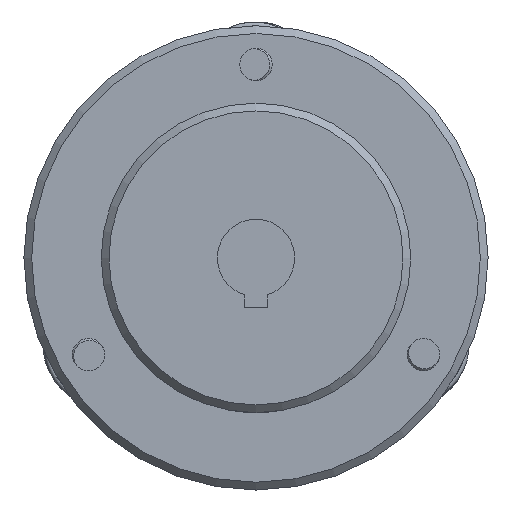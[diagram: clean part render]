
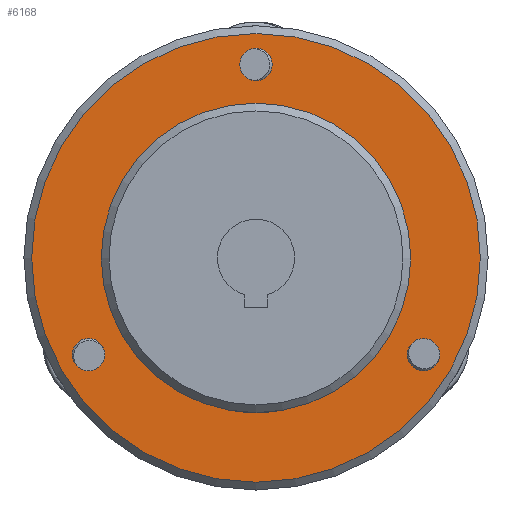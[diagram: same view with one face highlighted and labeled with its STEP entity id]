
A CAD part, left-side view. The second image highlights one B-rep face of the part: STEP entity #6168.
In plain terms, the highlighted planar face has unit normal (-1, 0, 0) as drawn and (0, 1, 0) by its records, which use the part's own axes.
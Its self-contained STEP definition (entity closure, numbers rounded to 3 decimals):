
#1181=FACE_BOUND('',#2025,.T.);
#1182=FACE_BOUND('',#2026,.T.);
#1183=FACE_BOUND('',#2027,.T.);
#1184=FACE_BOUND('',#2028,.T.);
#1580=FACE_OUTER_BOUND('',#2024,.T.);
#2024=EDGE_LOOP('',(#5620));
#2025=EDGE_LOOP('',(#5621));
#2026=EDGE_LOOP('',(#5622));
#2027=EDGE_LOOP('',(#5623));
#2028=EDGE_LOOP('',(#5624));
#2489=CIRCLE('',#7150,40.);
#2490=CIRCLE('',#7153,58.);
#2493=CIRCLE('',#7158,4.188);
#2494=CIRCLE('',#7159,4.188);
#2495=CIRCLE('',#7160,4.188);
#3005=VERTEX_POINT('',#13202);
#3009=VERTEX_POINT('',#13249);
#3012=VERTEX_POINT('',#13259);
#3013=VERTEX_POINT('',#13261);
#3014=VERTEX_POINT('',#13263);
#3880=EDGE_CURVE('',#3005,#3005,#2489,.T.);
#3884=EDGE_CURVE('',#3009,#3009,#2490,.T.);
#3889=EDGE_CURVE('',#3012,#3012,#2493,.T.);
#3890=EDGE_CURVE('',#3013,#3013,#2494,.T.);
#3891=EDGE_CURVE('',#3014,#3014,#2495,.T.);
#5620=ORIENTED_EDGE('',*,*,#3884,.F.);
#5621=ORIENTED_EDGE('',*,*,#3880,.F.);
#5622=ORIENTED_EDGE('',*,*,#3889,.T.);
#5623=ORIENTED_EDGE('',*,*,#3890,.T.);
#5624=ORIENTED_EDGE('',*,*,#3891,.T.);
#5780=PLANE('',#7157);
#6168=ADVANCED_FACE('',(#1580,#1181,#1182,#1183,#1184),#5780,.T.);
#7150=AXIS2_PLACEMENT_3D('',#13204,#9036,#9037);
#7153=AXIS2_PLACEMENT_3D('',#13250,#9042,#9043);
#7157=AXIS2_PLACEMENT_3D('',#13258,#9052,#9053);
#7158=AXIS2_PLACEMENT_3D('',#13260,#9054,#9055);
#7159=AXIS2_PLACEMENT_3D('',#13262,#9056,#9057);
#7160=AXIS2_PLACEMENT_3D('',#13264,#9058,#9059);
#9036=DIRECTION('center_axis',(0.,1.,0.));
#9037=DIRECTION('ref_axis',(-1.,0.,0.));
#9042=DIRECTION('center_axis',(0.,-1.,0.));
#9043=DIRECTION('ref_axis',(1.,0.,0.));
#9052=DIRECTION('center_axis',(0.,1.,0.));
#9053=DIRECTION('ref_axis',(0.,0.,1.));
#9054=DIRECTION('center_axis',(0.,-1.,0.));
#9055=DIRECTION('ref_axis',(1.,0.,0.));
#9056=DIRECTION('center_axis',(0.,-1.,0.));
#9057=DIRECTION('ref_axis',(1.,0.,0.));
#9058=DIRECTION('center_axis',(0.,-1.,0.));
#9059=DIRECTION('ref_axis',(1.,0.,0.));
#13202=CARTESIAN_POINT('',(40.,10.,0.));
#13204=CARTESIAN_POINT('Origin',(0.,10.,0.));
#13249=CARTESIAN_POINT('',(-58.,10.,0.));
#13250=CARTESIAN_POINT('Origin',(0.,10.,0.));
#13258=CARTESIAN_POINT('Origin',(-50.,10.,0.));
#13259=CARTESIAN_POINT('',(-47.489,10.,-25.));
#13260=CARTESIAN_POINT('Origin',(-43.301,10.,-25.));
#13261=CARTESIAN_POINT('',(-4.188,10.,50.));
#13262=CARTESIAN_POINT('Origin',(0.,10.,50.));
#13263=CARTESIAN_POINT('',(39.113,10.,-25.));
#13264=CARTESIAN_POINT('Origin',(43.301,10.,-25.));
